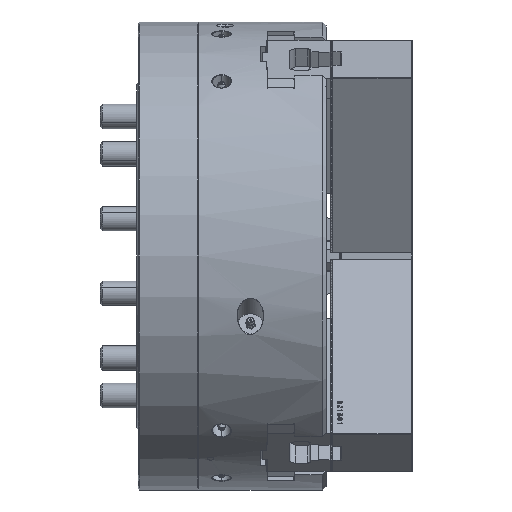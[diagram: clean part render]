
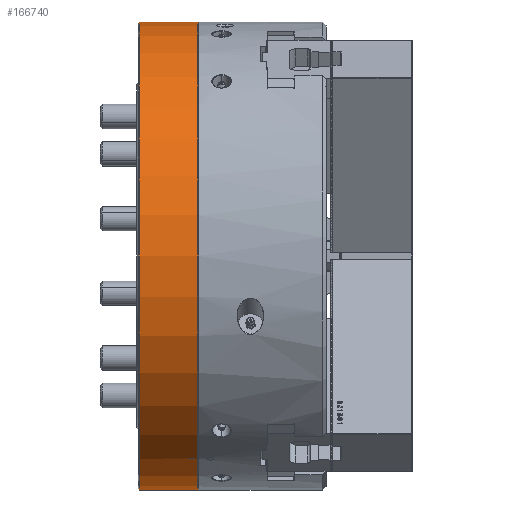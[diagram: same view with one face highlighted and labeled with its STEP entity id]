
A CAD part, front view. The second image highlights one B-rep face of the part: STEP entity #166740.
In plain terms, the highlighted cylindrical face has radius 190.5 mm (diameter 381 mm), a partial arc.
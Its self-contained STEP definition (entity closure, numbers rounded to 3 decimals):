
#797 = VECTOR ( 'NONE', #51207, 1000. ) ;
#2131 = CARTESIAN_POINT ( 'NONE',  ( -245.149, 0., -190.5 ) ) ;
#2257 = EDGE_CURVE ( 'NONE', #84149, #170428, #159076, .T. ) ;
#5126 = EDGE_CURVE ( 'NONE', #77812, #27678, #68397, .T. ) ;
#15999 = FACE_BOUND ( 'NONE', #24586, .T. ) ;
#20045 = DIRECTION ( 'NONE',  ( 0., 0., -1. ) ) ;
#21874 = VERTEX_POINT ( 'NONE', #44141 ) ;
#22450 = AXIS2_PLACEMENT_3D ( 'NONE', #157139, #82881, #159065 ) ;
#24586 = EDGE_LOOP ( 'NONE', ( #41862, #84812, #45451, #62483 ) ) ;
#24884 = DIRECTION ( 'NONE',  ( 0., 0., 1. ) ) ;
#27678 = VERTEX_POINT ( 'NONE', #172105 ) ;
#29827 = CIRCLE ( 'NONE', #128403, 190.5 ) ;
#30880 = CARTESIAN_POINT ( 'NONE',  ( -152., 0., -190.5 ) ) ;
#31256 = EDGE_CURVE ( 'NONE', #65597, #32894, #29827, .T. ) ;
#32894 = VERTEX_POINT ( 'NONE', #62059 ) ;
#33042 = CARTESIAN_POINT ( 'NONE',  ( -152., 0., 0. ) ) ;
#34579 = AXIS2_PLACEMENT_3D ( 'NONE', #33042, #147829, #148772 ) ;
#34836 = DIRECTION ( 'NONE',  ( -1., 0., 0. ) ) ;
#37682 = CARTESIAN_POINT ( 'NONE',  ( -245.149, -95.683, -164.727 ) ) ;
#41862 = ORIENTED_EDGE ( 'NONE', *, *, #2257, .F. ) ;
#44141 = CARTESIAN_POINT ( 'NONE',  ( -104.5, 0., -190.5 ) ) ;
#45451 = ORIENTED_EDGE ( 'NONE', *, *, #31256, .F. ) ;
#51207 = DIRECTION ( 'NONE',  ( -1., 0., 0. ) ) ;
#51910 = LINE ( 'NONE', #110751, #96139 ) ;
#62059 = CARTESIAN_POINT ( 'NONE',  ( -112., -94.817, -165.227 ) ) ;
#62483 = ORIENTED_EDGE ( 'NONE', *, *, #134993, .F. ) ;
#65325 = CARTESIAN_POINT ( 'NONE',  ( -112., 0., 0. ) ) ;
#65597 = VERTEX_POINT ( 'NONE', #109926 ) ;
#65686 = LINE ( 'NONE', #37682, #797 ) ;
#68397 = CIRCLE ( 'NONE', #34579, 190.5 ) ;
#70323 = FACE_OUTER_BOUND ( 'NONE', #111624, .T. ) ;
#71119 = CARTESIAN_POINT ( 'NONE',  ( -107., -94.817, -165.227 ) ) ;
#71586 = CARTESIAN_POINT ( 'NONE',  ( -107., 0., 0. ) ) ;
#73013 = EDGE_CURVE ( 'NONE', #21874, #91416, #108397, .T. ) ;
#73577 = EDGE_CURVE ( 'NONE', #21874, #77812, #98883, .T. ) ;
#77812 = VERTEX_POINT ( 'NONE', #30880 ) ;
#79282 = ORIENTED_EDGE ( 'NONE', *, *, #73013, .T. ) ;
#79376 = CARTESIAN_POINT ( 'NONE',  ( -245.149, 0., 190.5 ) ) ;
#79392 = ORIENTED_EDGE ( 'NONE', *, *, #175963, .T. ) ;
#82881 = DIRECTION ( 'NONE',  ( -1., 0., 0. ) ) ;
#84149 = VERTEX_POINT ( 'NONE', #71119 ) ;
#84812 = ORIENTED_EDGE ( 'NONE', *, *, #97839, .T. ) ;
#89886 = DIRECTION ( 'NONE',  ( -1., 0., 0. ) ) ;
#91416 = VERTEX_POINT ( 'NONE', #108052 ) ;
#96139 = VECTOR ( 'NONE', #156084, 1000. ) ;
#97839 = EDGE_CURVE ( 'NONE', #84149, #32894, #51910, .T. ) ;
#98883 = LINE ( 'NONE', #2131, #163931 ) ;
#108052 = CARTESIAN_POINT ( 'NONE',  ( -104.5, 0., 190.5 ) ) ;
#108397 = CIRCLE ( 'NONE', #120652, 190.5 ) ;
#109926 = CARTESIAN_POINT ( 'NONE',  ( -112., -95.683, -164.727 ) ) ;
#110619 = DIRECTION ( 'NONE',  ( 1., 0., 0. ) ) ;
#110751 = CARTESIAN_POINT ( 'NONE',  ( -245.149, -94.817, -165.227 ) ) ;
#111624 = EDGE_LOOP ( 'NONE', ( #123972, #79282, #79392, #131093 ) ) ;
#120652 = AXIS2_PLACEMENT_3D ( 'NONE', #185939, #184997, #24884 ) ;
#122764 = LINE ( 'NONE', #79376, #130759 ) ;
#123972 = ORIENTED_EDGE ( 'NONE', *, *, #73577, .F. ) ;
#125181 = AXIS2_PLACEMENT_3D ( 'NONE', #71586, #34836, #150618 ) ;
#128299 = CARTESIAN_POINT ( 'NONE',  ( -107., -95.683, -164.727 ) ) ;
#128403 = AXIS2_PLACEMENT_3D ( 'NONE', #65325, #110619, #20045 ) ;
#130759 = VECTOR ( 'NONE', #181602, 1000. ) ;
#131093 = ORIENTED_EDGE ( 'NONE', *, *, #5126, .F. ) ;
#134993 = EDGE_CURVE ( 'NONE', #170428, #65597, #65686, .T. ) ;
#147829 = DIRECTION ( 'NONE',  ( -1., 0., 0. ) ) ;
#148772 = DIRECTION ( 'NONE',  ( 0., 0., 1. ) ) ;
#150618 = DIRECTION ( 'NONE',  ( 0., 0., 1. ) ) ;
#156084 = DIRECTION ( 'NONE',  ( -1., 0., 0. ) ) ;
#157139 = CARTESIAN_POINT ( 'NONE',  ( -245.149, 0., 0. ) ) ;
#159065 = DIRECTION ( 'NONE',  ( 0., 0., 1. ) ) ;
#159076 = CIRCLE ( 'NONE', #125181, 190.5 ) ;
#163931 = VECTOR ( 'NONE', #89886, 1000. ) ;
#166740 = ADVANCED_FACE ( 'NONE', ( #70323, #15999 ), #173524, .T. ) ;
#170428 = VERTEX_POINT ( 'NONE', #128299 ) ;
#172105 = CARTESIAN_POINT ( 'NONE',  ( -152., 0., 190.5 ) ) ;
#173524 = CYLINDRICAL_SURFACE ( 'NONE', #22450, 190.5 ) ;
#175963 = EDGE_CURVE ( 'NONE', #91416, #27678, #122764, .T. ) ;
#181602 = DIRECTION ( 'NONE',  ( -1., 0., 0. ) ) ;
#184997 = DIRECTION ( 'NONE',  ( -1., 0., 0. ) ) ;
#185939 = CARTESIAN_POINT ( 'NONE',  ( -104.5, 0., 0. ) ) ;
